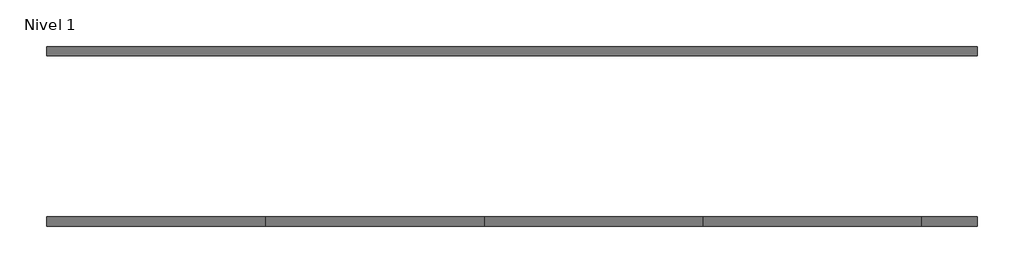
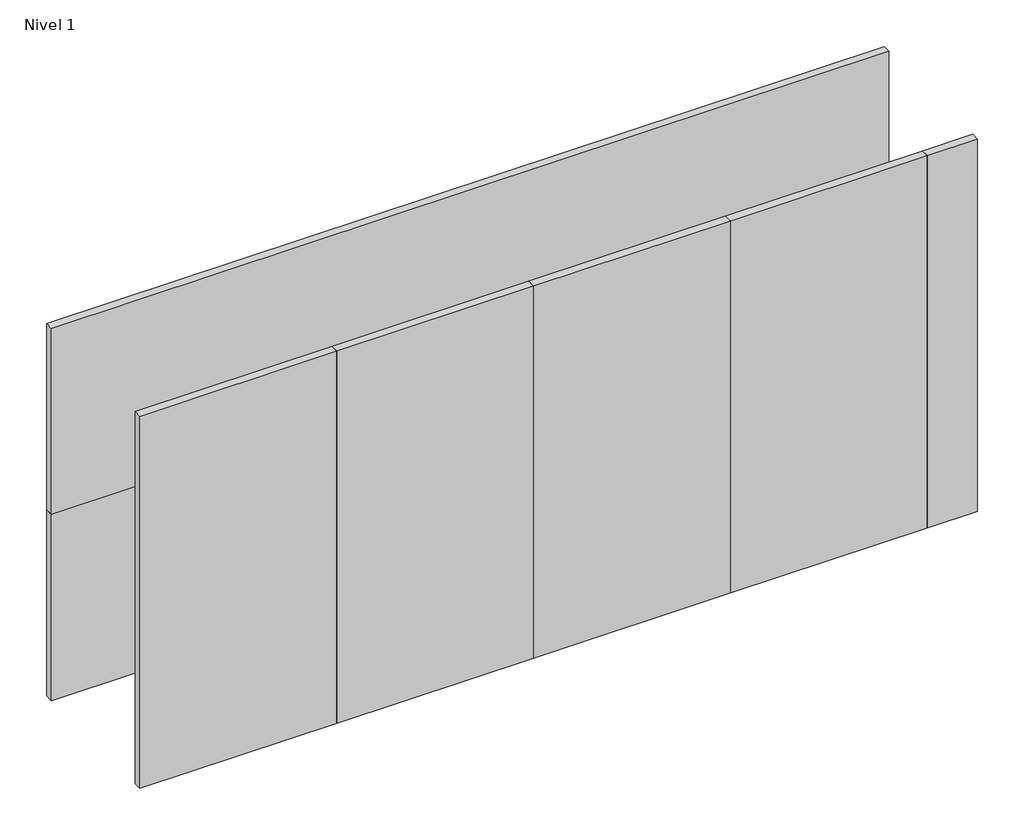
# One storey: 7 plates.
"""IFC4 building model written with IfcOpenShell, lengths in millimetres."""

from ifc_helpers import new_model, si_unit, origin, place, context, project, spatial, transform, mapped, element, save
from components import panel_del_sistema_d2d792b8, panel_del_sistema_b2de0735, panel_del_sistema_ebc15fb2

model = new_model("IFC4")

# Units and contexts
model_context = context("Model", 3, world=origin())
ifc_project = project(units=[si_unit("LENGTHUNIT", "METRE", prefix="MILLI")], contexts=[model_context])

# Site, building, storey
site = spatial("IfcSite", under=ifc_project)
building = spatial("IfcBuilding", under=site)
storey = spatial("IfcBuildingStorey", under=building, Name="Nivel 1", Elevation=0.0)

# Plates
placement = place(None, origin())
panel_del_sistema_shape = panel_del_sistema_d2d792b8(model_context)
element("IfcPlate", 1, ObjectType="Panel del sistema : HIANSA - CHAPA PERFILADA CUBIERTA - MT42 Hor", at=placement, inside=storey, context=model_context, shape_type="MappedRepresentation", body=[
    mapped(panel_del_sistema_shape, transform((6468.14367, 18436.5269271, 0.0), x_axis=(1.0, 0.0, 0.0), y_axis=(0.0, 1.0, 0.0), z_axis=(0.0, 0.0, 1.0))),
])
element("IfcPlate", 2, ObjectType="Panel del sistema : HIANSA - CHAPA PERFILADA CUBIERTA - MT42 Hor", at=placement, inside=storey, context=model_context, shape_type="MappedRepresentation", body=[
    mapped(panel_del_sistema_shape, transform((6468.14367, 18436.5269271, 1000.0), x_axis=(1.0, 0.0, 0.0), y_axis=(0.0, 1.0, 0.0), z_axis=(0.0, 0.0, 1.0))),
])
panel_del_sistema_2_shape = panel_del_sistema_b2de0735(model_context)
element("IfcPlate", 3, ObjectType="Panel del sistema : HIANSA - CHAPA PERFILADA CUBIERTA - MT42 Vert", at=placement, inside=storey, context=model_context, shape_type="MappedRepresentation", body=[
    mapped(panel_del_sistema_2_shape, transform((4840.1436702, 17658.0269271, 0.0), x_axis=(1.0, 0.0, 0.0), y_axis=(0.0, 1.0, 0.0), z_axis=(0.0, 0.0, 1.0))),
])
element("IfcPlate", 4, ObjectType="Panel del sistema : HIANSA - CHAPA PERFILADA CUBIERTA - MT42 Vert", at=placement, inside=storey, context=model_context, shape_type="MappedRepresentation", body=[
    mapped(panel_del_sistema_2_shape, transform((6840.1436703, 17658.0269271, 0.0), x_axis=(1.0, 0.0, 0.0), y_axis=(0.0, 1.0, 0.0), z_axis=(0.0, 0.0, 1.0))),
])
element("IfcPlate", 5, ObjectType="Panel del sistema : HIANSA - CHAPA PERFILADA CUBIERTA - MT42 Vert", at=placement, inside=storey, context=model_context, shape_type="MappedRepresentation", body=[
    mapped(panel_del_sistema_2_shape, transform((7840.1436703, 17658.0269271, 0.0), x_axis=(1.0, 0.0, 0.0), y_axis=(0.0, 1.0, 0.0), z_axis=(0.0, 0.0, 1.0))),
])
element("IfcPlate", 6, ObjectType="Panel del sistema : HIANSA - CHAPA PERFILADA CUBIERTA - MT42 Vert", at=placement, inside=storey, context=model_context, shape_type="MappedRepresentation", body=[
    mapped(panel_del_sistema_2_shape, transform((5840.1436703, 17658.0269271, 0.0), x_axis=(1.0, 0.0, 0.0), y_axis=(0.0, 1.0, 0.0), z_axis=(0.0, 0.0, 1.0))),
])
panel_del_sistema_3_shape = panel_del_sistema_ebc15fb2(model_context)
element("IfcPlate", 7, ObjectType="Panel del sistema : HIANSA - CHAPA PERFILADA CUBIERTA - MT42 Vert", at=placement, inside=storey, context=model_context, shape_type="MappedRepresentation", body=[
    mapped(panel_del_sistema_3_shape, transform((8468.1436702, 17658.0269271, 0.0), x_axis=(1.0, 0.0, 0.0), y_axis=(0.0, 1.0, 0.0), z_axis=(0.0, 0.0, 1.0))),
])

save(model, "model.ifc")
